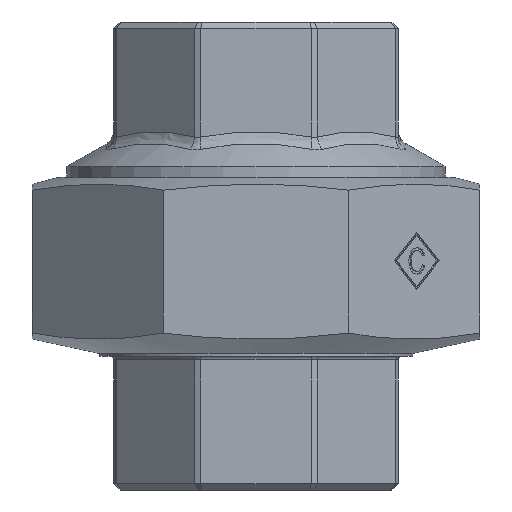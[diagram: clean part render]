
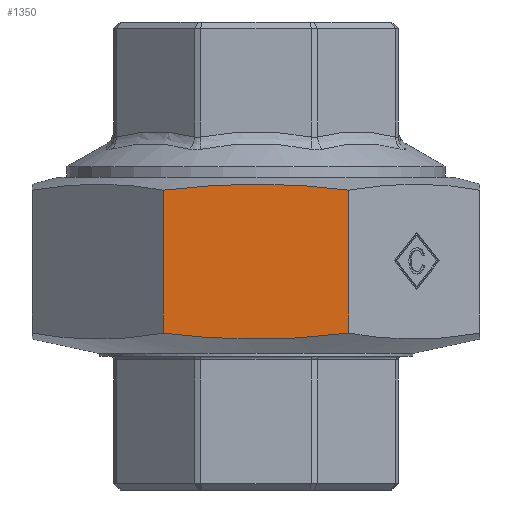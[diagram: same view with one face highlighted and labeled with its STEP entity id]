
A CAD part, front view. The second image highlights one B-rep face of the part: STEP entity #1350.
In plain terms, the highlighted planar face has unit normal (0, -1, 0).
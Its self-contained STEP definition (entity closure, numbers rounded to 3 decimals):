
#783=CARTESIAN_POINT('',(10.258,-24.765,17.36));
#784=VERTEX_POINT('',#783);
#811=CARTESIAN_POINT('',(10.258,-24.765,33.182));
#812=VERTEX_POINT('',#811);
#829=CARTESIAN_POINT('',(10.258,-24.765,17.36));
#830=DIRECTION('',(0.0,0.0,1.0));
#831=VECTOR('',#830,15.822);
#832=LINE('',#829,#831);
#833=EDGE_CURVE('',#784,#812,#832,.T.);
#1019=CARTESIAN_POINT('',(-10.258,-24.765,33.182));
#1020=VERTEX_POINT('',#1019);
#1021=CARTESIAN_POINT('',(10.258,-24.765,33.182));
#1022=CARTESIAN_POINT('',(8.507,-24.765,33.414));
#1023=CARTESIAN_POINT('',(6.751,-24.765,33.579));
#1024=CARTESIAN_POINT('',(5.028,-24.765,33.685));
#1025=CARTESIAN_POINT('',(3.662,-24.765,33.769));
#1026=CARTESIAN_POINT('',(2.318,-24.765,33.816));
#1027=CARTESIAN_POINT('',(1.015,-24.765,33.831));
#1028=CARTESIAN_POINT('',(0.36,-24.765,33.839));
#1029=CARTESIAN_POINT('',(-0.278,-24.765,33.84));
#1030=CARTESIAN_POINT('',(-0.932,-24.765,33.832));
#1031=CARTESIAN_POINT('',(-3.903,-24.765,33.799));
#1032=CARTESIAN_POINT('',(-7.09,-24.765,33.602));
#1033=CARTESIAN_POINT('',(-10.258,-24.765,33.182));
#1034=B_SPLINE_CURVE_WITH_KNOTS('',3,(#1021,#1022,#1023,#1024,#1025,#1026,#1027,#1028,#1029,#1030,#1031,#1032,#1033),.UNSPECIFIED.,.F.,.U.,(4,3,3,3,4),(-0.969,-0.485,-0.101,0.092,0.969),.UNSPECIFIED.);
#1035=EDGE_CURVE('',#812,#1020,#1034,.T.);
#1267=CARTESIAN_POINT('',(-10.258,-24.765,17.36));
#1268=VERTEX_POINT('',#1267);
#1269=CARTESIAN_POINT('',(-10.258,-24.765,17.36));
#1270=CARTESIAN_POINT('',(-6.756,-24.765,16.896));
#1271=CARTESIAN_POINT('',(-3.231,-24.765,16.704));
#1272=CARTESIAN_POINT('',(0.,-24.765,16.704));
#1273=CARTESIAN_POINT('',(0.43,-24.765,16.704));
#1274=CARTESIAN_POINT('',(0.866,-24.765,16.708));
#1275=CARTESIAN_POINT('',(1.305,-24.765,16.715));
#1276=CARTESIAN_POINT('',(4.17,-24.765,16.759));
#1277=CARTESIAN_POINT('',(7.223,-24.765,16.958));
#1278=CARTESIAN_POINT('',(10.258,-24.765,17.36));
#1279=B_SPLINE_CURVE_WITH_KNOTS('',3,(#1269,#1270,#1271,#1272,#1273,#1274,#1275,#1276,#1277,#1278),.UNSPECIFIED.,.F.,.U.,(4,3,3,4),(13.861,14.83,14.959,15.8),.UNSPECIFIED.);
#1280=EDGE_CURVE('',#1268,#784,#1279,.T.);
#1334=CARTESIAN_POINT('',(10.258,-24.765,14.73));
#1335=DIRECTION('',(0.0,-1.0,0.0));
#1336=DIRECTION('',(0.0,0.0,-1.0));
#1337=AXIS2_PLACEMENT_3D('',#1334,#1335,#1336);
#1338=PLANE('',#1337);
#1339=ORIENTED_EDGE('',*,*,#1280,.T.);
#1340=ORIENTED_EDGE('',*,*,#833,.T.);
#1341=ORIENTED_EDGE('',*,*,#1035,.T.);
#1342=CARTESIAN_POINT('',(-10.258,-24.765,17.36));
#1343=DIRECTION('',(0.0,0.0,1.0));
#1344=VECTOR('',#1343,15.822);
#1345=LINE('',#1342,#1344);
#1346=EDGE_CURVE('',#1268,#1020,#1345,.T.);
#1347=ORIENTED_EDGE('',*,*,#1346,.F.);
#1348=EDGE_LOOP('',(#1339,#1340,#1341,#1347));
#1349=FACE_OUTER_BOUND('',#1348,.T.);
#1350=ADVANCED_FACE('',(#1349),#1338,.T.);
